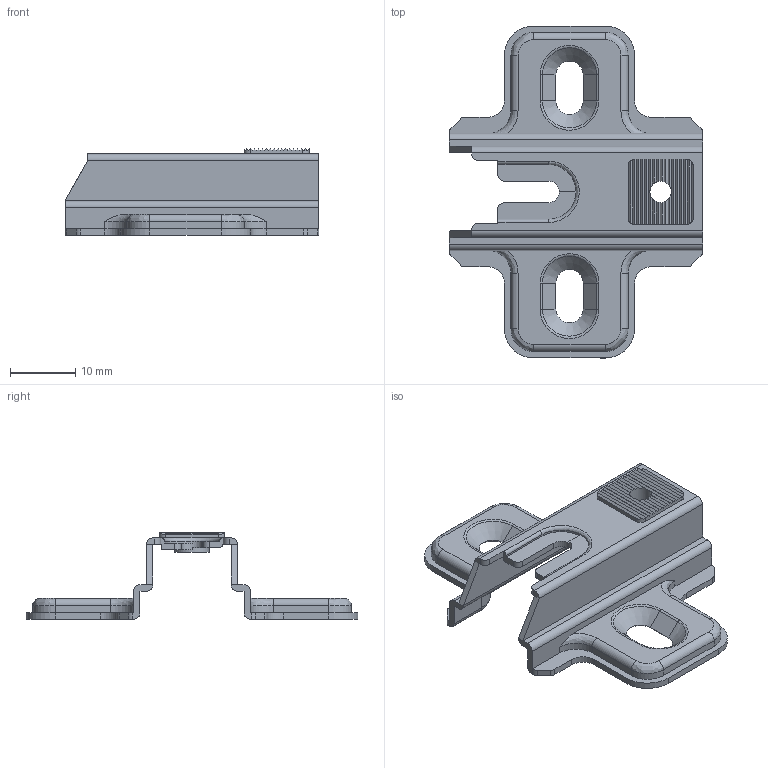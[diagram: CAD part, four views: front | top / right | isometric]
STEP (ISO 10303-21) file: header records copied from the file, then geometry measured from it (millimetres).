
FILE_DESCRIPTION (( 'STEP AP214' ), '1' );
FILE_NAME ('Podlozka-H0, slide-on, vrut, rucne_350872_3D.STEP', '2019-07-24T07:25:28', ( '' ), ( '' ), 'SwSTEP 2.0', 'SolidWorks 2019', '' );
FILE_SCHEMA (( 'AUTOMOTIVE_DESIGN' ));
Length unit declared in the file: millimetre
Products named in the file (1): Podlozka-H0, slide-on, vrut, rucne_350872_3D
Bounding box: 39 x 51 x 13.3 mm (x, y, z)
Volume: 2197.8 mm3; surface area: 4767.2 mm2
Topology: 1 solids, 1 shells, 261 faces, 701 edges, 442 vertices
Faces by surface type: plane 135, cylinder 82, bspline 32, cone 12
Full cylindrical faces by diameter (mm): 3.3 x1, 5.3 x1
Entity records: 8968 total; most frequent: CARTESIAN_POINT 2615, ORIENTED_EDGE 1396, DIRECTION 1263, EDGE_CURVE 698, VERTEX_POINT 441, LINE 433, VECTOR 433, AXIS2_PLACEMENT_3D 415
